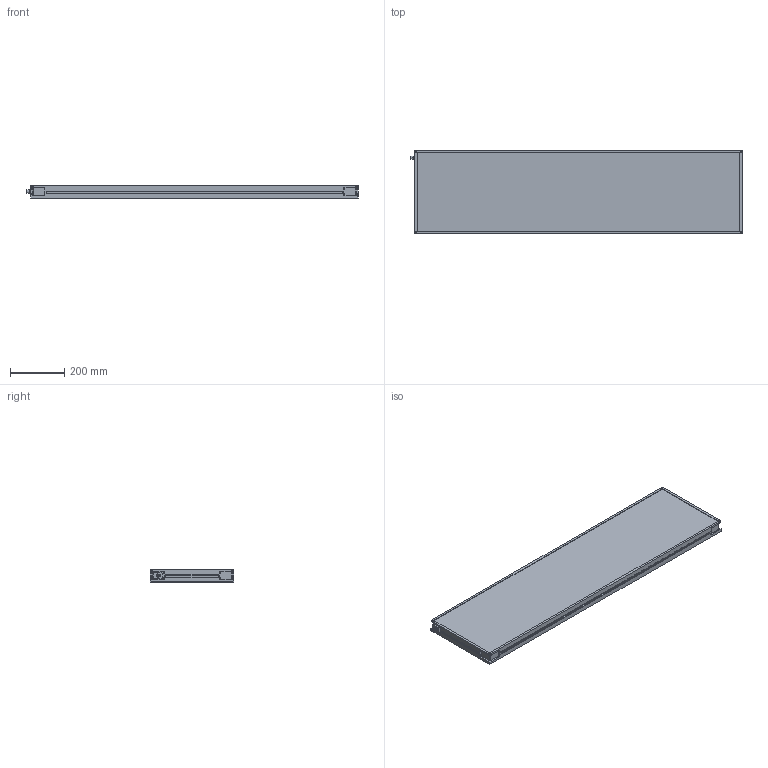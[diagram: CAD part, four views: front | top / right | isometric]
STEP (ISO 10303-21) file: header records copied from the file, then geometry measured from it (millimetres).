
FILE_DESCRIPTION (( 'STEP AP214' ), '1' );
FILE_NAME ('MBACK-xxxx-xxx-M1_CLIENT300x1200.STEP', '2022-03-31T16:00:08', ( '' ), ( '' ), 'SwSTEP 2.0', 'SolidWorks 2020', '' );
FILE_SCHEMA (( 'AUTOMOTIVE_DESIGN' ));
Length unit declared in the file: millimetre
Products named in the file (1): MBACK-xxxx-xxx-M1_CLIENT300x1200
Bounding box: 1225.9 x 308 x 45.5 mm (x, y, z)
Volume: 15439031.8 mm3; surface area: 945405.7 mm2
Topology: 1 solids, 1 shells, 442 faces, 1144 edges, 760 vertices
Faces by surface type: plane 249, cylinder 105, bspline 80, cone 8
Entity records: 17236 total; most frequent: CARTESIAN_POINT 6699, ORIENTED_EDGE 2288, DIRECTION 1936, EDGE_CURVE 1144, VERTEX_POINT 760, LINE 758, VECTOR 758, AXIS2_PLACEMENT_3D 589
